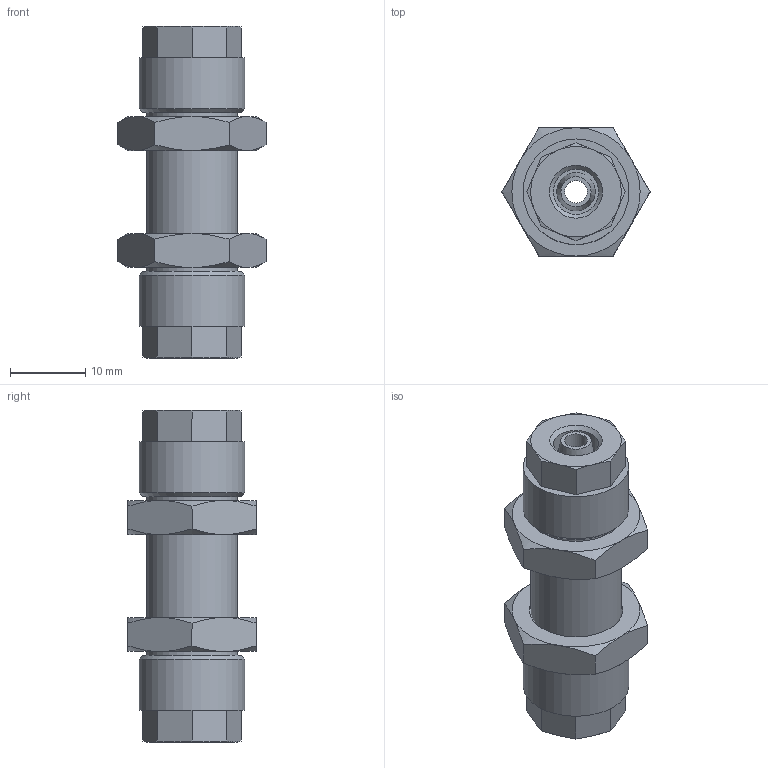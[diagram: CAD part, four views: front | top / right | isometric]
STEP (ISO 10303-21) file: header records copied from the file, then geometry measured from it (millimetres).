
FILE_DESCRIPTION(/* description */ (''),/* implementation_level */ '2;1');
FILE_NAME(/* name */ '10505_304_86_64_17.07.17',/* time_stamp */ '2017-07-17T12:12:18+02:00',/* author */ (''),/* organization */ (''),/* preprocessor_version */ 'ST-DEVELOPER v16.5',/* originating_system */ 'HiCAD 2016 2102.2 Build 618',/* authorisation */ '');
FILE_SCHEMA (('AUTOMOTIVE_DESIGN { 1 0 10303 214 1 1 1 1 }'));
Length unit declared in the file: millimetre
Products named in the file (6): Root; R10505; Kontermutter; 02_17006_6; 17006
Assembly tree (5 placements, depth 2):
  Root
    R10505
    Kontermutter
    Kontermutter
    02_17006_6
    17006
Bounding box: 19.63 x 17 x 44 mm (x, y, z)
Volume: 6091.7 mm3; surface area: 5607.9 mm2
Topology: 5 solids, 5 shells, 116 faces, 254 edges, 154 vertices
Faces by surface type: cone 57, plane 44, cylinder 13, torus 2
Full cylindrical faces by diameter (mm): 3 x1, 4.7 x1, 5 x1, 6 x1, 6.5 x1, 8 x1, 10.773 x4, 12 x1, 14 x2
Entity records: 5156 total; most frequent: DIRECTION 624, CARTESIAN_POINT 474, PRESENTATION_STYLE_ASSIGNMENT 421, COLOUR_RGB 417, DRAUGHTING_PRE_DEFINED_CURVE_FONT 416, CURVE_STYLE 416, OVER_RIDING_STYLED_ITEM 416, ORIENTED_EDGE 416
